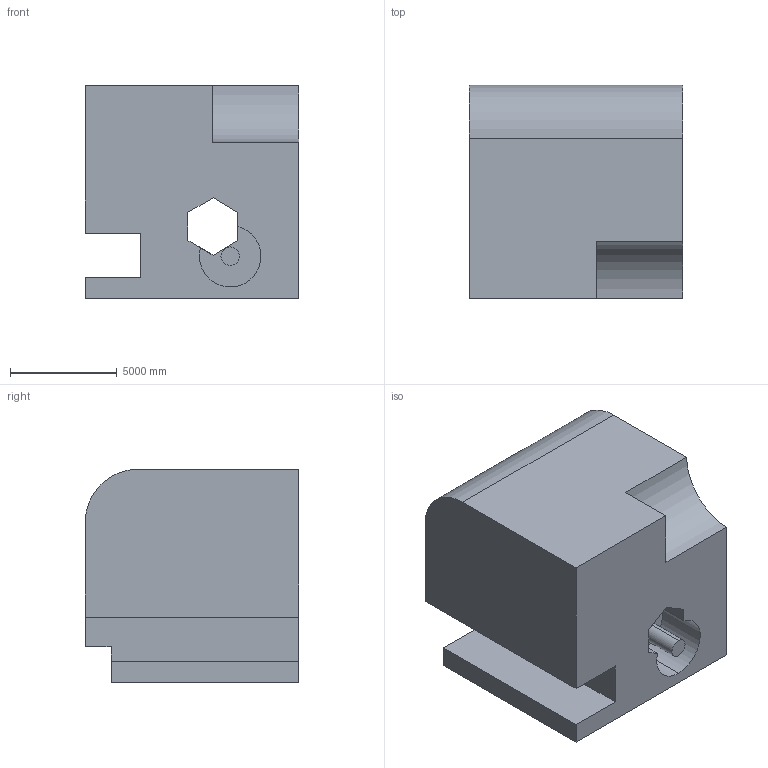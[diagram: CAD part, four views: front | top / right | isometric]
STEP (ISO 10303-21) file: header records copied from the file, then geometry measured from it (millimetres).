
FILE_DESCRIPTION (( 'STEP AP203' ), '1' );
FILE_NAME ('501.STEP', '2022-07-29T11:32:18', ( 'user' ), ( '' ), 'SwSTEP 2.0', 'SolidWorks 2021', '' );
FILE_SCHEMA (( 'CONFIG_CONTROL_DESIGN' ));
Length unit declared in the file: centimetre
Products named in the file (1): 501
Bounding box: 10000 x 10000 x 10000 mm (x, y, z)
Volume: 834726547298.6 mm3; surface area: 700959219.8 mm2
Topology: 1 solids, 1 shells, 27 faces, 72 edges, 48 vertices
Faces by surface type: plane 21, cylinder 6
Entity records: 919 total; most frequent: CARTESIAN_POINT 148, ORIENTED_EDGE 144, DIRECTION 140, EDGE_CURVE 72, LINE 60, VECTOR 60, VERTEX_POINT 48, AXIS2_PLACEMENT_3D 40
